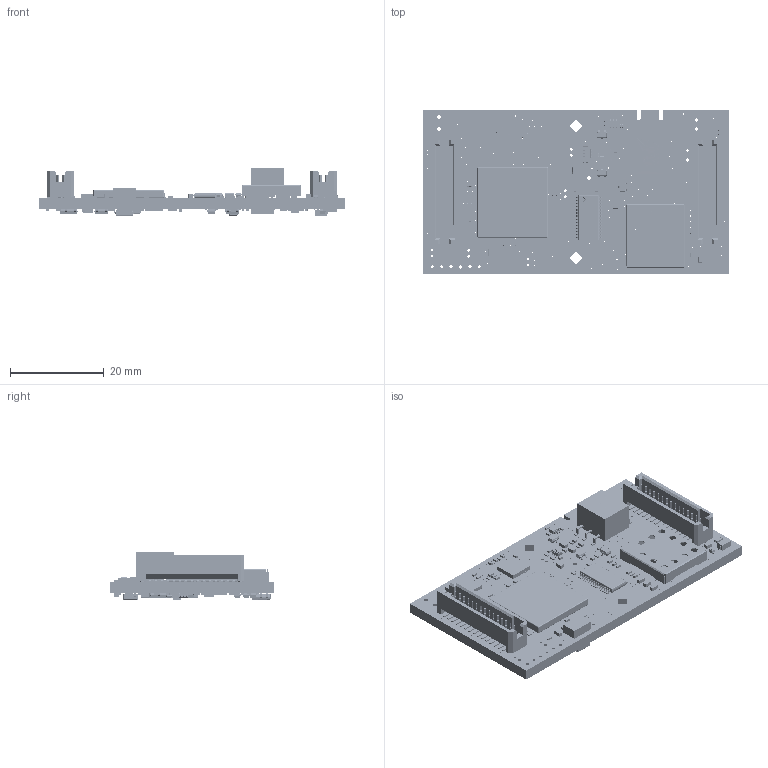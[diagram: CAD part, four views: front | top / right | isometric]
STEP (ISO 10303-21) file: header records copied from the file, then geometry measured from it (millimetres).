
FILE_DESCRIPTION(('STEP AP214'),'1');
FILE_NAME('ICM_4.step','2022-03-14T07:40:02',(' '),(' '),'Spatial InterOp 3D','XD3DPlugin XRACreate',' ');
FILE_SCHEMA(('automotive_design'));
Length unit declared in the file: millimetre
Products named in the file (135): DesignRootModel; uid__10529; Submodel-W:\VX-Projects-Mentor\IceCubeGen2\ICM_4\PCB\Layout\3D\ImportedPartModels\ID3D000010.stp; ID3D000010.xtd; Submodel-CAPA001346_part_cap_0402_ze__V1; Submodel-W:\VX-Projects-Mentor\IceCubeGen2\ICM_4\PCB\Layout\3D\ImportedPartModels\ID3D000563.stp; ID3D000563.xtd; Submodel-CONN001664_part_CN_SMD_30P_15x2_1.27SP_ST_M__V1; Submodel-W:\VX-Projects-Mentor\IceCubeGen2\ICM_4\PCB\Layout\3D\ImportedPartModels\ID3D000141.stp; ID3D000141.xtd; Submodel-RESI000351_part_res_0402_ze__V1; Submodel-W:\VX-Projects-Mentor\IceCubeGen2\ICM_4\PCB\Layout\3D\ImportedPartModels\ID3D101855.stp; ID3D101855.xtd; Submodel-INDU002975_part_IND_SMD_2P_2.1SP_3X3B__V1; Submodel-W:\VX-Projects-Mentor\IceCubeGen2\ICM_4\PCB\Layout\3D\ImportedPartModels\ID3D000327.stp; ID3D000327.xtd; Submodel-DIOD100665_part_SOT323_PO_1.2.3__V1; Submodel-W:\VX-Projects-Mentor\IceCubeGen2\ICM_4\PCB\Layout\3D\ImportedPartModels\ID3D000221.stp; ID3D000221.xtd; Submodel-CAPA102224_part_cap_0603_ze__V1; Submodel-W:\VX-Projects-Mentor\IceCubeGen2\ICM_4\PCB\Layout\3D\ImportedPartModels\SGH-13_comma_66x12_comma_70x2_comma_54-Clips.step; SGH-13,66x12,70x2,54-Clips.xtd; Submodel-MISC003560_part_EMI_shield_SMD_13.66x12.7__V1; Submodel-RESI100158_part_res_0402_ze__V1; Submodel-DIOD003615_part_SOT323_PO_1.2.3__V1; Submodel-RESI101217_part_res_0402_ze__V1; Submodel-noModelForPart_ICDI003543_728914494_cmpbody; gray; Submodel-noModelForPart_ICDI003543_728914494; Submodel-ICDI003543_728914494_part_BGA196_1SP_15X15B_.4Ball__V1; Submodel-W:\VX-Projects-Mentor\IceCubeGen2\ICM_4\PCB\Layout\3D\ImportedPartModels\ID3D100309.stp; ID3D100309.xtd; Submodel-DIOD102031_part_PSI_DIODE_SMD_SOD523_1.2X0.8B__V1; Submodel-RESI100663_part_res_0402_ze__V1; Submodel-W:\VX-Projects-Mentor\IceCubeGen2\ICM_4\PCB\Layout\3D\ImportedPartModels\ID3D100111.stp; ID3D100111.xtd; Submodel-DIOD100871_part_PSI_SOT363_6P_.65SP_2X1.25B_2.1W__V1; Submodel-W:\VX-Projects-Mentor\IceCubeGen2\ICM_4\PCB\Layout\3D\ImportedPartModels\ID3D001247.stp; ID3D001247.stp; Submodel-ICDI001375_part_TSOC6_1.27SP_3.8X3.8B_4.3W__V1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
Assembly tree (317 placements, depth 6):
  ICM_4
    DesignRootModel
      uid__10529
      Submodel-CAPA001346_part_cap_0402_ze__V1  x32
        Submodel-W:\VX-Projects-Mentor\IceCubeGen2\ICM_4\PCB\Layout\3D\ImportedPartModels\ID3D000010.stp
          ID3D000010.xtd
      Submodel-CONN001664_part_CN_SMD_30P_15x2_1.27SP_ST_M__V1  x2
        Submodel-W:\VX-Projects-Mentor\IceCubeGen2\ICM_4\PCB\Layout\3D\ImportedPartModels\ID3D000563.stp
          ID3D000563.xtd
      Submodel-RESI000351_part_res_0402_ze__V1
        Submodel-W:\VX-Projects-Mentor\IceCubeGen2\ICM_4\PCB\Layout\3D\ImportedPartModels\ID3D000141.stp
          ID3D000141.xtd
      Submodel-INDU002975_part_IND_SMD_2P_2.1SP_3X3B__V1  x3
        Submodel-W:\VX-Projects-Mentor\IceCubeGen2\ICM_4\PCB\Layout\3D\ImportedPartModels\ID3D101855.stp
          ID3D101855.xtd
      Submodel-DIOD100665_part_SOT323_PO_1.2.3__V1  x2
        Submodel-W:\VX-Projects-Mentor\IceCubeGen2\ICM_4\PCB\Layout\3D\ImportedPartModels\ID3D000327.stp
          ID3D000327.xtd
      Submodel-CAPA102224_part_cap_0603_ze__V1  x13
        Submodel-W:\VX-Projects-Mentor\IceCubeGen2\ICM_4\PCB\Layout\3D\ImportedPartModels\ID3D000221.stp
          ID3D000221.xtd
      Submodel-MISC003560_part_EMI_shield_SMD_13.66x12.7__V1
        Submodel-W:\VX-Projects-Mentor\IceCubeGen2\ICM_4\PCB\Layout\3D\ImportedPartModels\SGH-13_comma_66x12_comma_70x2_comma_54-Clips.step
          SGH-13,66x12,70x2,54-Clips.xtd
      Submodel-RESI100158_part_res_0402_ze__V1  x13
        Submodel-W:\VX-Projects-Mentor\IceCubeGen2\ICM_4\PCB\Layout\3D\ImportedPartModels\ID3D000141.stp
          ID3D000141.xtd
      Submodel-DIOD003615_part_SOT323_PO_1.2.3__V1  x2
        Submodel-W:\VX-Projects-Mentor\IceCubeGen2\ICM_4\PCB\Layout\3D\ImportedPartModels\ID3D000327.stp
          ID3D000327.xtd
      Submodel-RESI101217_part_res_0402_ze__V1  x6
        Submodel-W:\VX-Projects-Mentor\IceCubeGen2\ICM_4\PCB\Layout\3D\ImportedPartModels\ID3D000141.stp
          ID3D000141.xtd
      Submodel-ICDI003543_728914494_part_BGA196_1SP_15X15B_.4Ball__V1
        Submodel-noModelForPart_ICDI003543_728914494
          Submodel-noModelForPart_ICDI003543_728914494_cmpbody
            gray
      Submodel-DIOD102031_part_PSI_DIODE_SMD_SOD523_1.2X0.8B__V1
        Submodel-W:\VX-Projects-Mentor\IceCubeGen2\ICM_4\PCB\Layout\3D\ImportedPartModels\ID3D100309.stp
          ID3D100309.xtd
      Submodel-RESI100663_part_res_0402_ze__V1
        Submodel-W:\VX-Projects-Mentor\IceCubeGen2\ICM_4\PCB\Layout\3D\ImportedPartModels\ID3D000141.stp
          ID3D000141.xtd
      Submodel-DIOD100871_part_PSI_SOT363_6P_.65SP_2X1.25B_2.1W__V1  x2
        Submodel-W:\VX-Projects-Mentor\IceCubeGen2\ICM_4\PCB\Layout\3D\ImportedPartModels\ID3D100111.stp
          ID3D100111.xtd
      Submodel-ICDI001375_part_TSOC6_1.27SP_3.8X3.8B_4.3W__V1
        Submodel-W:\VX-Projects-Mentor\IceCubeGen2\ICM_4\PCB\Layout\3D\ImportedPartModels\ID3D001247.stp
          ID3D001247.stp
      Submodel-RESI002822_part_res_0402_ze__V1  x6
        Submodel-W:\VX-Projects-Mentor\IceCubeGen2\ICM_4\PCB\Layout\3D\ImportedPartModels\ID3D000141.stp
          ID3D000141.xtd
      Submodel-FUSE003564_part_FUSE_0603_0.55H__V1
        Submodel-W:\VX-Projects-Mentor\IceCubeGen2\ICM_4\PCB\Layout\3D\ImportedPartModels\ID3D100916.stp
          ID3D100916.xtd
      Submodel-DIOD102885_part_SOT457_6P_.95SP_3.1X1.7B_2.8W__V1
        Submodel-W:\VX-Projects-Mentor\IceCubeGen2\ICM_4\PCB\Layout\3D\ImportedPartModels\ID3D001003.stp
          ID3D001003.xtd
      Submodel-RESI100161_part_res_0402_ze__V1  x4
        Submodel-W:\VX-Projects-Mentor\IceCubeGen2\ICM_4\PCB\Layout\3D\ImportedPartModels\ID3D000141.stp
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Bounding box: 65 x 35 x 10.2 mm (x, y, z)
Topology: 372 solids, 373 shells, 18030 faces, 50365 edges, 32749 vertices
Faces by surface type: plane 8866, cylinder 5895, sphere 2012, bspline 1136, extrusion 114, torus 5, cone 2
Full cylindrical faces by diameter (mm): 0.122 x1, 0.2 x376, 0.25 x2, 0.3 x72, 0.457 x60, 0.667 x1, 0.7 x10, 0.8 x10, 1 x2, 1.1 x2, 1.27 x4, 1.35 x4, 1.5 x5, 2.8 x2
Entity records: 1488716 total; most frequent: DIRECTION 278459, ORIENTED_EDGE 252898, CARTESIAN_POINT 169846, EDGE_CURVE 126449, AXIS2_PLACEMENT_3D 103892, VERTEX_POINT 84507, VECTOR 70675, LINE 70618
